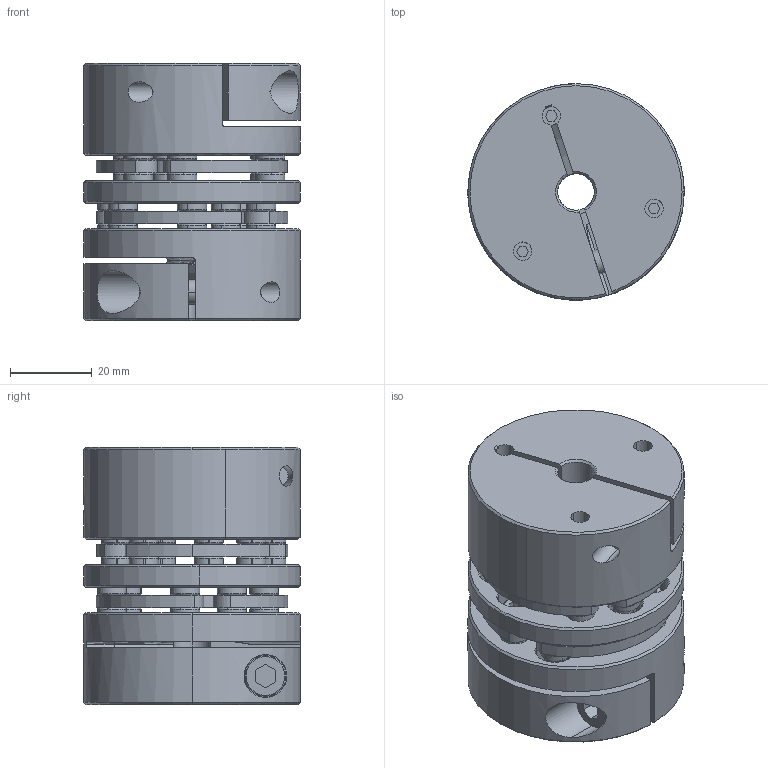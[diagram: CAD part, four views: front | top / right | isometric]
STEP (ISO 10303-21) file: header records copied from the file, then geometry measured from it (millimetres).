
FILE_DESCRIPTION((''),'2;1');
FILE_NAME('6P18-A1C','2019-02-14T',('SYSTEM'),(''),'PRO/ENGINEER BY PARAMETRIC TECHNOLOGY CORPORATION, 2016360','PRO/ENGINEER BY PARAMETRIC TECHNOLOGY CORPORATION, 2016360','');
FILE_SCHEMA(('AUTOMOTIVE_DESIGN { 1 0 10303 214 1 1 1 1 }'));
Length unit declared in the file: inch
Products named in the file (1): 6P18-A1C
Bounding box: 53.01 x 53 x 62.98 mm (x, y, z)
Volume: 102954.8 mm3; surface area: 43476.2 mm2
Topology: 1 solids, 19 shells, 1134 faces, 3130 edges, 2109 vertices
Faces by surface type: cylinder 536, cone 264, plane 230, torus 104
Entity records: 47647 total; most frequent: DIRECTION 7304, CARTESIAN_POINT 6784, ORIENTED_EDGE 6226, PRESENTATION_STYLE_ASSIGNMENT 3169, STYLED_ITEM 3114, CURVE_STYLE 3113, EDGE_CURVE 3113, AXIS2_PLACEMENT_3D 3108
